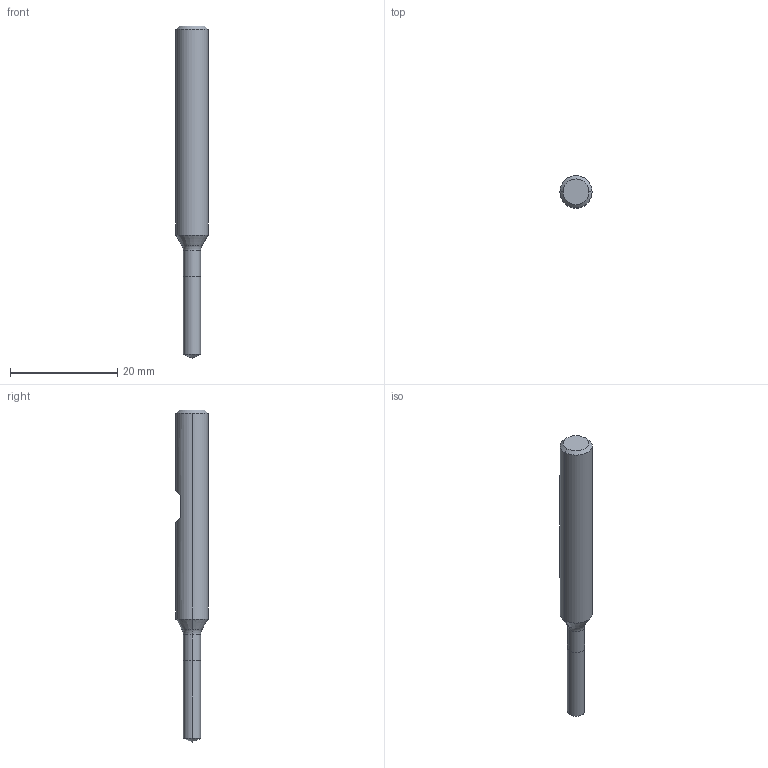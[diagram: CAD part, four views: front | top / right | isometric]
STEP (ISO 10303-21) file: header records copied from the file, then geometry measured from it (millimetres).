
FILE_DESCRIPTION (( 'STEP AP214' ), '1' );
FILE_NAME ('843.032.10_3D-model.step', '2022-02-24T02:52:36', ( '' ), ( '' ), 'SwSTEP 2.0', 'SolidWorks 2020', '' );
FILE_SCHEMA (( 'AUTOMOTIVE_DESIGN' ));
Length unit declared in the file: millimetre
Products named in the file (3): CUT-3D^Baugr7; 843.032.10_3D-model; NOCUT-3D^Baugr7
Assembly tree (2 placements, depth 2):
  843.032.10_3D-model
    CUT-3D^Baugr7
    NOCUT-3D^Baugr7
Bounding box: 6 x 6 x 62 mm (x, y, z)
Volume: 1290.9 mm3; surface area: 1021.8 mm2
Topology: 2 solids, 2 shells, 20 faces, 38 edges, 21 vertices
Faces by surface type: cone 6, cylinder 6, plane 6, torus 2
Entity records: 608 total; most frequent: DIRECTION 108, CARTESIAN_POINT 91, ORIENTED_EDGE 72, AXIS2_PLACEMENT_3D 46, EDGE_CURVE 36, VERTEX_POINT 21, EDGE_LOOP 21, FACE_OUTER_BOUND 20
